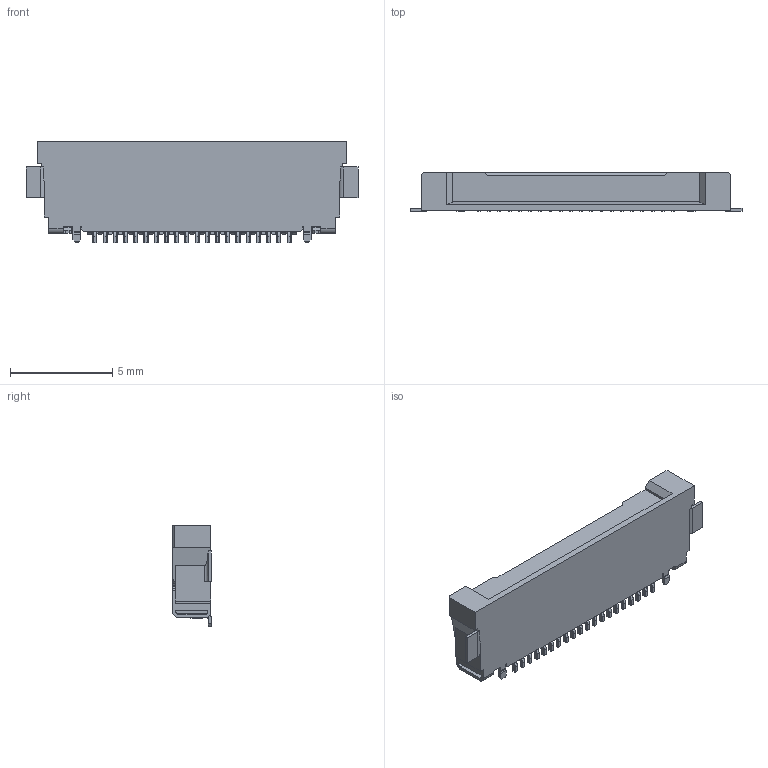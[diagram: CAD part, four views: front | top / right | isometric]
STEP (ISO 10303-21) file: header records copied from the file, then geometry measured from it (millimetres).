
FILE_DESCRIPTION (( 'STEP AP203' ), '1' );
FILE_NAME ('20535-020ExxxC Assy STEP R5 ALL.STEP', '2014-05-30T02:19:26', ( '' ), ( '' ), 'SwSTEP 2.0', 'SolidWorks 2011', '' );
FILE_SCHEMA (( 'CONFIG_CONTROL_DESIGN' ));
Length unit declared in the file: millimetre
Products named in the file (1): 20535-020ExxxC Assy STEP R5 ALL
Bounding box: 16.25 x 1.9 x 4.95 mm (x, y, z)
Volume: 110.5 mm3; surface area: 229.5 mm2
Topology: 1 solids, 1 shells, 978 faces, 2758 edges, 1781 vertices
Faces by surface type: plane 706, cylinder 228, cone 44
Entity records: 31327 total; most frequent: CARTESIAN_POINT 5668, ORIENTED_EDGE 5516, DIRECTION 5164, EDGE_CURVE 2758, VECTOR 2210, LINE 2210, VERTEX_POINT 1781, AXIS2_PLACEMENT_3D 1477
